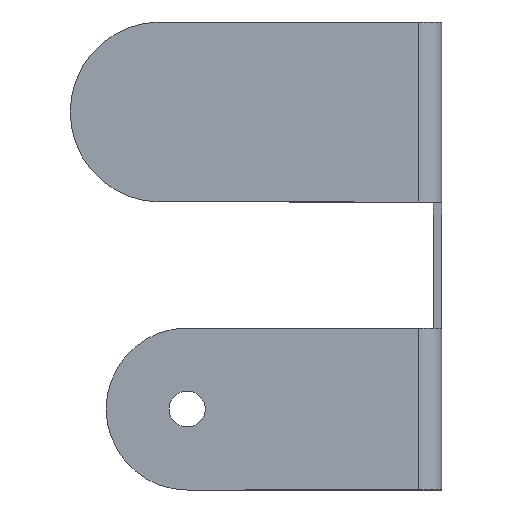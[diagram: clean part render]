
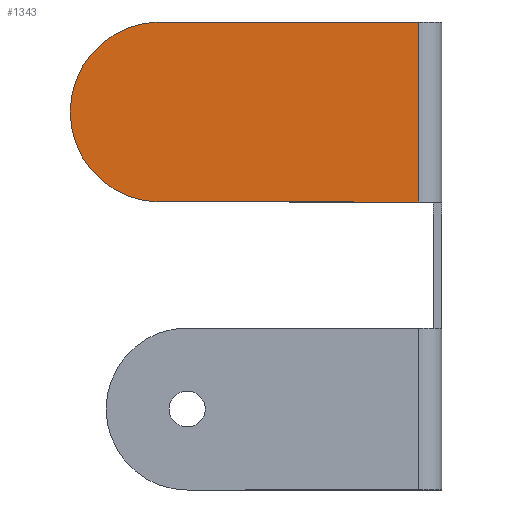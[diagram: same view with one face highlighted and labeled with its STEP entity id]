
A CAD part, left-side view. The second image highlights one B-rep face of the part: STEP entity #1343.
In plain terms, the highlighted planar face has unit normal (-1, 0, 0).
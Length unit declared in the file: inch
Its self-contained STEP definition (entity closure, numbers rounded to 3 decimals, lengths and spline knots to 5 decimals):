
#84 = FACE_OUTER_BOUND ( 'NONE', #1259, .T. ) ;
#99 = CARTESIAN_POINT ( 'NONE',  ( -0.5975, 0.1, 1.6875 ) ) ;
#103 = CARTESIAN_POINT ( 'NONE',  ( -0.5975, 0.1, 0.4375 ) ) ;
#223 = DIRECTION ( 'NONE',  ( -1., 0., 0. ) ) ;
#267 = VECTOR ( 'NONE', #1306, 39.37008 ) ;
#270 = LINE ( 'NONE', #451, #267 ) ;
#273 = VECTOR ( 'NONE', #500, 39.37008 ) ;
#276 = LINE ( 'NONE', #473, #273 ) ;
#281 = CIRCLE ( 'NONE', #843, 0.625 ) ;
#299 = VECTOR ( 'NONE', #724, 39.37008 ) ;
#301 = LINE ( 'NONE', #833, #299 ) ;
#451 = CARTESIAN_POINT ( 'NONE',  ( -0.5975, -2.9792, 1.6875 ) ) ;
#473 = CARTESIAN_POINT ( 'NONE',  ( -0.5975, -0.1042, 0.4375 ) ) ;
#500 = DIRECTION ( 'NONE',  ( 0., 1., 0. ) ) ;
#525 = EDGE_CURVE ( 'NONE', #1444, #1435, #301, .T. ) ;
#544 = EDGE_CURVE ( 'NONE', #1129, #1108, #281, .T. ) ;
#546 = EDGE_CURVE ( 'NONE', #1444, #1129, #276, .T. ) ;
#552 = EDGE_CURVE ( 'NONE', #1108, #1435, #270, .T. ) ;
#706 = PLANE ( 'NONE',  #938 ) ;
#724 = DIRECTION ( 'NONE',  ( 0., 0., 1. ) ) ;
#809 = ORIENTED_EDGE ( 'NONE', *, *, #546, .F. ) ;
#812 = ORIENTED_EDGE ( 'NONE', *, *, #525, .T. ) ;
#816 = ORIENTED_EDGE ( 'NONE', *, *, #552, .F. ) ;
#819 = ORIENTED_EDGE ( 'NONE', *, *, #544, .F. ) ;
#833 = CARTESIAN_POINT ( 'NONE',  ( -0.5975, 0.1, -1. ) ) ;
#843 = AXIS2_PLACEMENT_3D ( 'NONE', #1359, #973, #1263 ) ;
#938 = AXIS2_PLACEMENT_3D ( 'NONE', #1489, #223, #1449 ) ;
#973 = DIRECTION ( 'NONE',  ( 1., 0., 0. ) ) ;
#1102 = CARTESIAN_POINT ( 'NONE',  ( -0.5975, 1.8958, 0.4375 ) ) ;
#1108 = VERTEX_POINT ( 'NONE', #1344 ) ;
#1129 = VERTEX_POINT ( 'NONE', #1102 ) ;
#1259 = EDGE_LOOP ( 'NONE', ( #809, #812, #816, #819 ) ) ;
#1263 = DIRECTION ( 'NONE',  ( 0., 0., 1. ) ) ;
#1306 = DIRECTION ( 'NONE',  ( 0., -1., 0. ) ) ;
#1343 = ADVANCED_FACE ( 'NONE', ( #84 ), #706, .T. ) ;
#1344 = CARTESIAN_POINT ( 'NONE',  ( -0.5975, 1.8958, 1.6875 ) ) ;
#1359 = CARTESIAN_POINT ( 'NONE',  ( -0.5975, 1.8958, 1.0625 ) ) ;
#1435 = VERTEX_POINT ( 'NONE', #99 ) ;
#1444 = VERTEX_POINT ( 'NONE', #103 ) ;
#1449 = DIRECTION ( 'NONE',  ( 0., 0., -1. ) ) ;
#1489 = CARTESIAN_POINT ( 'NONE',  ( -0.5975, -2.7917, -1. ) ) ;
